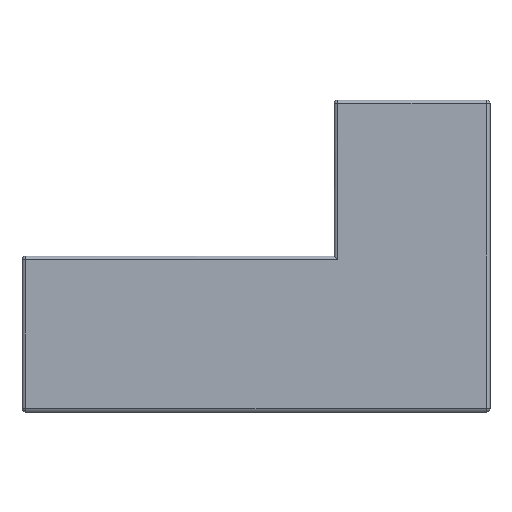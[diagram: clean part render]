
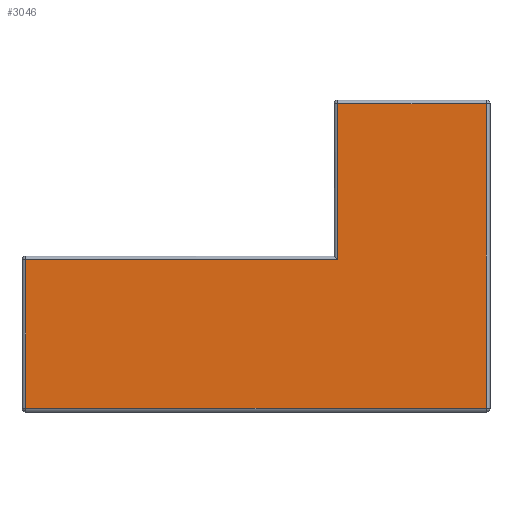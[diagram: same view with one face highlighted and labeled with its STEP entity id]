
A CAD part, front view. The second image highlights one B-rep face of the part: STEP entity #3046.
In plain terms, the highlighted planar face has unit normal (0, -1, 0).
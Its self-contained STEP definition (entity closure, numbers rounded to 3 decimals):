
#147=PLANE('',#3326);
#283=LINE('',#5230,#464);
#284=LINE('',#5232,#465);
#285=LINE('',#5234,#466);
#286=LINE('',#5236,#467);
#287=LINE('',#5238,#468);
#288=LINE('',#5239,#469);
#464=VECTOR('',#3888,10.);
#465=VECTOR('',#3889,10.);
#466=VECTOR('',#3890,10.);
#467=VECTOR('',#3891,10.);
#468=VECTOR('',#3892,10.);
#469=VECTOR('',#3893,10.);
#622=FACE_OUTER_BOUND('',#823,.T.);
#823=EDGE_LOOP('',(#2366,#2367,#2368,#2369,#2370,#2371));
#1342=VERTEX_POINT('',#5228);
#1343=VERTEX_POINT('',#5229);
#1344=VERTEX_POINT('',#5231);
#1345=VERTEX_POINT('',#5233);
#1346=VERTEX_POINT('',#5235);
#1347=VERTEX_POINT('',#5237);
#1704=EDGE_CURVE('',#1342,#1343,#283,.T.);
#1705=EDGE_CURVE('',#1344,#1342,#284,.T.);
#1706=EDGE_CURVE('',#1345,#1344,#285,.T.);
#1707=EDGE_CURVE('',#1346,#1345,#286,.T.);
#1708=EDGE_CURVE('',#1347,#1346,#287,.T.);
#1709=EDGE_CURVE('',#1343,#1347,#288,.T.);
#2366=ORIENTED_EDGE('',*,*,#1704,.F.);
#2367=ORIENTED_EDGE('',*,*,#1705,.F.);
#2368=ORIENTED_EDGE('',*,*,#1706,.F.);
#2369=ORIENTED_EDGE('',*,*,#1707,.F.);
#2370=ORIENTED_EDGE('',*,*,#1708,.F.);
#2371=ORIENTED_EDGE('',*,*,#1709,.F.);
#3046=ADVANCED_FACE('',(#622),#147,.F.);
#3326=AXIS2_PLACEMENT_3D('',#5227,#3886,#3887);
#3886=DIRECTION('center_axis',(0.,1.,0.));
#3887=DIRECTION('ref_axis',(0.,0.,1.));
#3888=DIRECTION('',(-1.,0.,0.));
#3889=DIRECTION('',(0.,0.,-1.));
#3890=DIRECTION('',(1.,0.,0.));
#3891=DIRECTION('',(0.,0.,1.));
#3892=DIRECTION('',(1.,0.,0.));
#3893=DIRECTION('',(0.,0.,1.));
#5227=CARTESIAN_POINT('Origin',(1360.,30.,-160.));
#5228=CARTESIAN_POINT('',(2380.,30.,-780.));
#5229=CARTESIAN_POINT('',(20.,30.,-780.));
#5230=CARTESIAN_POINT('',(1880.,30.,-780.));
#5231=CARTESIAN_POINT('',(2380.,30.,780.));
#5232=CARTESIAN_POINT('',(2380.,30.,320.));
#5233=CARTESIAN_POINT('',(1620.,30.,780.));
#5234=CARTESIAN_POINT('',(1480.,30.,780.));
#5235=CARTESIAN_POINT('',(1620.,30.,-20.));
#5236=CARTESIAN_POINT('',(1620.,30.,-80.));
#5237=CARTESIAN_POINT('',(20.,30.,-20.));
#5238=CARTESIAN_POINT('',(680.,30.,-20.));
#5239=CARTESIAN_POINT('',(20.,30.,-480.));
